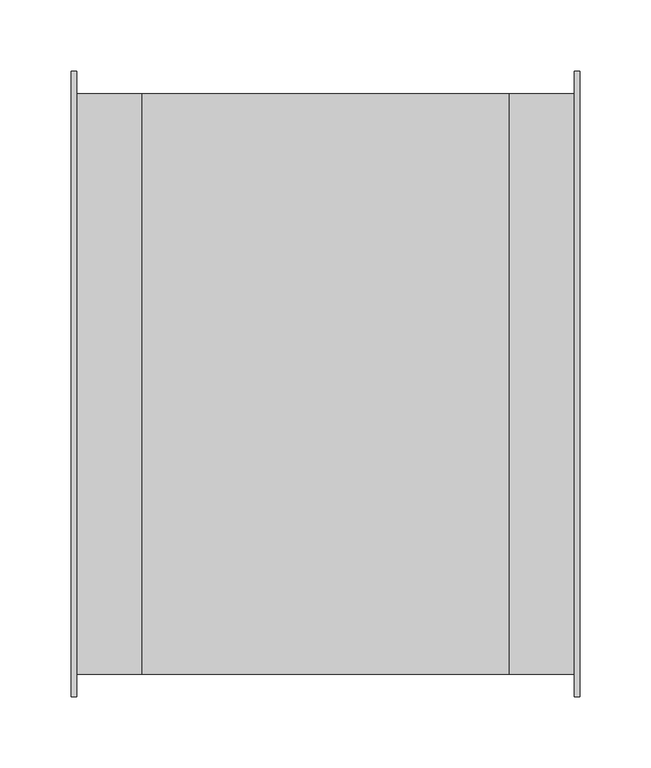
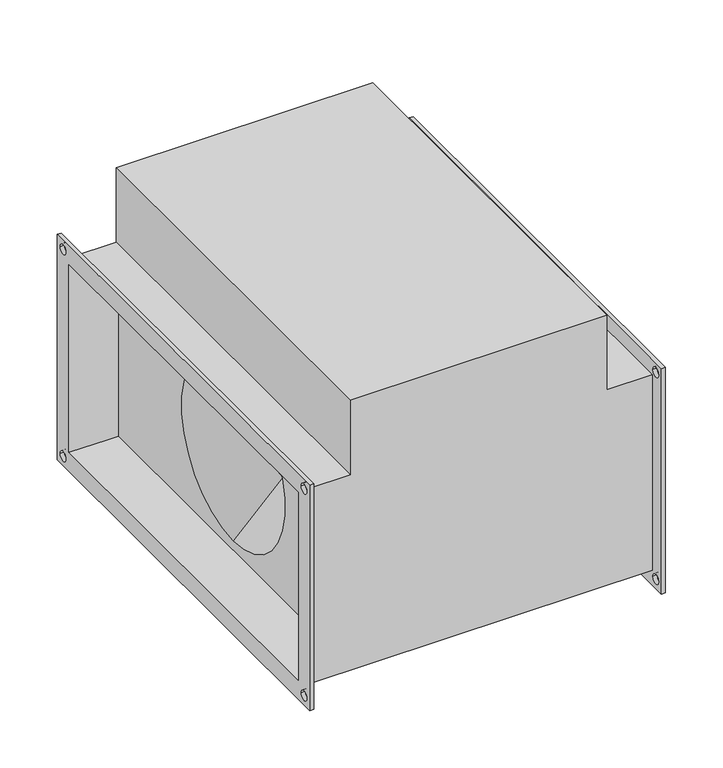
"""IFC4 building model written with IfcOpenShell, lengths in millimetres: proxy geometry, СВ_Вентилятор_КанальныйПрямоугольный_200-1000_SVPS : SVPS-400x200/18.2D."""

from ifc_helpers import new_model, si_unit, frame, origin, place, context, project, spatial, polyline, circle_curve, source, transform, mapped, element, save
from ifc_brep_helpers import plane_surface, revolved_surface, advanced_brep


def mechanical_equipment_0b55b7ea(model_context):
    return source(origin(), model_context, "Body", "AdvancedBrep", [
        advanced_brep(
        [(-175.0, -204.0, 104.0), (-129.0, -204.0, 104.0), (-129.0, 204.0, 104.0), (-175.0, 204.0, 104.0), (129.0, 204.0, 183.0), (129.0, -204.0, 183.0), (129.0, -204.0, 104.0), (129.0, 204.0, 104.0), (129.0, 200.0, -100.0), (129.0, 200.0, 100.0), (129.0, -200.0, 100.0), (129.0, -200.0, -100.0), (129.0, 0.0, 90.0), (129.0, 0.0, -90.0), (-129.0, 200.0, 100.0), (-129.0, 200.0, -100.0), (-129.0, -200.0, -100.0), (-129.0, -200.0, 100.0), (-129.0, 0.0, -90.0), (-129.0, 0.0, 90.0), (-129.0, -204.0, 183.0), (-129.0, 204.0, 183.0), (-175.0, -204.0, -104.0), (175.0, -204.0, -104.0), (175.0, -204.0, 104.0), (-175.0, 204.0, -104.0), (175.0, 204.0, -104.0), (175.0, 204.0, 104.0), (79.0, 0.0, -40.0), (79.0, 0.0, 40.0), (-79.0, 0.0, 40.0), (-79.0, 0.0, -40.0), (-179.0, -220.0, 120.0), (-179.0, 220.0, 120.0), (-179.0, 220.0, -120.0), (-179.0, -220.0, -120.0), (-179.0, -200.0, 100.0), (-179.0, -200.0, -100.0), (-179.0, 200.0, -100.0), (-179.0, 200.0, 100.0), (-179.0, 205.0, 110.0), (-179.0, 215.0, 110.0), (-179.0, -215.0, 110.0), (-179.0, -205.0, 110.0), (-179.0, -215.0, -110.0), (-179.0, -205.0, -110.0), (-179.0, 205.0, -110.0), (-179.0, 215.0, -110.0), (-175.0, -220.0, 120.0), (-175.0, -220.0, -120.0), (-175.0, 220.0, -120.0), (-175.0, 220.0, 120.0), (-175.0, 215.0, 110.0), (-175.0, 205.0, 110.0), (-175.0, -205.0, 110.0), (-175.0, -215.0, 110.0), (-175.0, -205.0, -110.0), (-175.0, -215.0, -110.0), (-175.0, 215.0, -110.0), (-175.0, 205.0, -110.0), (175.0, 220.0, 120.0), (175.0, 220.0, -120.0), (175.0, -220.0, -120.0), (175.0, -220.0, 120.0), (175.0, 205.0, 110.0), (175.0, 215.0, 110.0), (175.0, -215.0, 110.0), (175.0, -205.0, 110.0), (175.0, -215.0, -110.0), (175.0, -205.0, -110.0), (175.0, 205.0, -110.0), (175.0, 215.0, -110.0), (179.0, 220.0, 120.0), (179.0, -220.0, 120.0), (179.0, -220.0, -120.0), (179.0, 220.0, -120.0), (179.0, 200.0, 100.0), (179.0, 200.0, -100.0), (179.0, -200.0, -100.0), (179.0, -200.0, 100.0), (179.0, 215.0, 110.0), (179.0, 205.0, 110.0), (179.0, -205.0, 110.0), (179.0, -215.0, 110.0), (179.0, -205.0, -110.0), (179.0, -215.0, -110.0), (179.0, 215.0, -110.0), (179.0, 205.0, -110.0)],
        [
            (0, 1),
            (1, 2),
            (2, 3),
            (3, 0),
            (4, 5),
            (5, 6),
            (6, 7),
            (7, 4),
            (8, 9),
            (9, 10),
            (10, 11),
            (11, 8),
            (12, 13, circle_curve(frame((129.0, 0.0, 0.0), z_axis=(-1.0, 0.0, 0.0), x_axis=(0.0, 0.0, 1.0)), 90.0)),
            (13, 12, circle_curve(frame((129.0, 0.0, 0.0), z_axis=(-1.0, 0.0, 0.0), x_axis=(0.0, 0.0, 1.0)), 90.0)),
            (14, 15),
            (15, 16),
            (16, 17),
            (17, 14),
            (18, 19, circle_curve(frame((-129.0, 0.0, 0.0), z_axis=(1.0, 0.0, 0.0), x_axis=(0.0, 0.0, 1.0)), 90.0)),
            (19, 18, circle_curve(frame((-129.0, 0.0, 0.0), z_axis=(1.0, 0.0, 0.0), x_axis=(0.0, 0.0, 1.0)), 90.0)),
            (20, 21),
            (21, 2),
            (1, 20),
            (5, 20),
            (0, 22),
            (22, 23),
            (23, 24),
            (24, 6),
            (22, 25),
            (25, 26),
            (26, 23),
            (21, 4),
            (7, 27),
            (27, 26),
            (25, 3),
            (24, 27),
            (28, 13),
            (12, 29),
            (29, 28, circle_curve(frame((79.0, 0.0, 0.0), z_axis=(-1.0, 0.0, 0.0), x_axis=(0.0, 0.0, 1.0)), 40.0)),
            (28, 29, circle_curve(frame((79.0, 0.0, 0.0), z_axis=(-1.0, 0.0, 0.0), x_axis=(0.0, 0.0, 1.0)), 40.0)),
            (29, 30),
            (30, 31, circle_curve(frame((-79.0, 0.0, 0.0), z_axis=(-1.0, 0.0, 0.0), x_axis=(0.0, 0.0, 1.0)), 40.0)),
            (31, 28),
            (31, 30, circle_curve(frame((-79.0, 0.0, 0.0), z_axis=(-1.0, 0.0, 0.0), x_axis=(0.0, 0.0, 1.0)), 40.0)),
            (30, 19),
            (18, 31),
            (32, 33),
            (33, 34),
            (34, 35),
            (35, 32),
            (36, 37),
            (37, 38),
            (38, 39),
            (39, 36),
            (40, 41, circle_curve(frame((-179.0, 210.0, 110.0), z_axis=(1.0, 0.0, 0.0), x_axis=(0.0, 1.0, 0.0)), 5.0)),
            (41, 40, circle_curve(frame((-179.0, 210.0, 110.0), z_axis=(1.0, 0.0, 0.0), x_axis=(0.0, 1.0, 0.0)), 5.0)),
            (42, 43, circle_curve(frame((-179.0, -210.0, 110.0), z_axis=(1.0, 0.0, 0.0), x_axis=(0.0, 1.0, 0.0)), 5.0)),
            (43, 42, circle_curve(frame((-179.0, -210.0, 110.0), z_axis=(1.0, 0.0, 0.0), x_axis=(0.0, 1.0, 0.0)), 5.0)),
            (44, 45, circle_curve(frame((-179.0, -210.0, -110.0), z_axis=(1.0, 0.0, 0.0), x_axis=(0.0, 1.0, 0.0)), 5.0)),
            (45, 44, circle_curve(frame((-179.0, -210.0, -110.0), z_axis=(1.0, 0.0, 0.0), x_axis=(0.0, 1.0, 0.0)), 5.0)),
            (46, 47, circle_curve(frame((-179.0, 210.0, -110.0), z_axis=(1.0, 0.0, 0.0), x_axis=(0.0, 1.0, 0.0)), 5.0)),
            (47, 46, circle_curve(frame((-179.0, 210.0, -110.0), z_axis=(1.0, 0.0, 0.0), x_axis=(0.0, 1.0, 0.0)), 5.0)),
            (48, 49),
            (49, 50),
            (50, 51),
            (51, 48),
            (52, 53, circle_curve(frame((-175.0, 210.0, 110.0), z_axis=(-1.0, 0.0, 0.0), x_axis=(0.0, 1.0, 0.0)), 5.0)),
            (53, 52, circle_curve(frame((-175.0, 210.0, 110.0), z_axis=(-1.0, 0.0, 0.0), x_axis=(0.0, 1.0, 0.0)), 5.0)),
            (54, 55, circle_curve(frame((-175.0, -210.0, 110.0), z_axis=(-1.0, 0.0, 0.0), x_axis=(0.0, 1.0, 0.0)), 5.0)),
            (55, 54, circle_curve(frame((-175.0, -210.0, 110.0), z_axis=(-1.0, 0.0, 0.0), x_axis=(0.0, 1.0, 0.0)), 5.0)),
            (56, 57, circle_curve(frame((-175.0, -210.0, -110.0), z_axis=(-1.0, 0.0, 0.0), x_axis=(0.0, 1.0, 0.0)), 5.0)),
            (57, 56, circle_curve(frame((-175.0, -210.0, -110.0), z_axis=(-1.0, 0.0, 0.0), x_axis=(0.0, 1.0, 0.0)), 5.0)),
            (58, 59, circle_curve(frame((-175.0, 210.0, -110.0), z_axis=(-1.0, 0.0, 0.0), x_axis=(0.0, 1.0, 0.0)), 5.0)),
            (59, 58, circle_curve(frame((-175.0, 210.0, -110.0), z_axis=(-1.0, 0.0, 0.0), x_axis=(0.0, 1.0, 0.0)), 5.0)),
            (35, 49),
            (48, 32),
            (34, 50),
            (33, 51),
            (60, 61),
            (61, 62),
            (62, 63),
            (63, 60),
            (64, 65, circle_curve(frame((175.0, 210.0, 110.0), z_axis=(1.0, 0.0, 0.0), x_axis=(0.0, 1.0, 0.0)), 5.0)),
            (65, 64, circle_curve(frame((175.0, 210.0, 110.0), z_axis=(1.0, 0.0, 0.0), x_axis=(0.0, 1.0, 0.0)), 5.0)),
            (66, 67, circle_curve(frame((175.0, -210.0, 110.0), z_axis=(1.0, 0.0, 0.0), x_axis=(0.0, 1.0, 0.0)), 5.0)),
            (67, 66, circle_curve(frame((175.0, -210.0, 110.0), z_axis=(1.0, 0.0, 0.0), x_axis=(0.0, 1.0, 0.0)), 5.0)),
            (68, 69, circle_curve(frame((175.0, -210.0, -110.0), z_axis=(1.0, 0.0, 0.0), x_axis=(0.0, 1.0, 0.0)), 5.0)),
            (69, 68, circle_curve(frame((175.0, -210.0, -110.0), z_axis=(1.0, 0.0, 0.0), x_axis=(0.0, 1.0, 0.0)), 5.0)),
            (70, 71, circle_curve(frame((175.0, 210.0, -110.0), z_axis=(1.0, 0.0, 0.0), x_axis=(0.0, 1.0, 0.0)), 5.0)),
            (71, 70, circle_curve(frame((175.0, 210.0, -110.0), z_axis=(1.0, 0.0, 0.0), x_axis=(0.0, 1.0, 0.0)), 5.0)),
            (72, 73),
            (73, 74),
            (74, 75),
            (75, 72),
            (76, 77),
            (77, 78),
            (78, 79),
            (79, 76),
            (80, 81, circle_curve(frame((179.0, 210.0, 110.0), z_axis=(-1.0, 0.0, 0.0), x_axis=(0.0, 1.0, 0.0)), 5.0)),
            (81, 80, circle_curve(frame((179.0, 210.0, 110.0), z_axis=(-1.0, 0.0, 0.0), x_axis=(0.0, 1.0, 0.0)), 5.0)),
            (82, 83, circle_curve(frame((179.0, -210.0, 110.0), z_axis=(-1.0, 0.0, 0.0), x_axis=(0.0, 1.0, 0.0)), 5.0)),
            (83, 82, circle_curve(frame((179.0, -210.0, 110.0), z_axis=(-1.0, 0.0, 0.0), x_axis=(0.0, 1.0, 0.0)), 5.0)),
            (84, 85, circle_curve(frame((179.0, -210.0, -110.0), z_axis=(-1.0, 0.0, 0.0), x_axis=(0.0, 1.0, 0.0)), 5.0)),
            (85, 84, circle_curve(frame((179.0, -210.0, -110.0), z_axis=(-1.0, 0.0, 0.0), x_axis=(0.0, 1.0, 0.0)), 5.0)),
            (86, 87, circle_curve(frame((179.0, 210.0, -110.0), z_axis=(-1.0, 0.0, 0.0), x_axis=(0.0, 1.0, 0.0)), 5.0)),
            (87, 86, circle_curve(frame((179.0, 210.0, -110.0), z_axis=(-1.0, 0.0, 0.0), x_axis=(0.0, 1.0, 0.0)), 5.0)),
            (63, 73),
            (72, 60),
            (62, 74),
            (61, 75),
            (39, 14),
            (17, 36),
            (38, 15),
            (37, 16),
            (76, 9),
            (8, 77),
            (11, 78),
            (10, 79),
            (40, 53),
            (52, 41),
            (64, 81),
            (80, 65),
            (42, 55),
            (54, 43),
            (66, 83),
            (82, 67),
            (44, 57),
            (56, 45),
            (68, 85),
            (84, 69),
            (46, 59),
            (58, 47),
            (70, 87),
            (86, 71),
        ],
        [
            plane_surface(frame((-129.0, 204.0, 104.0), z_axis=(0.0, 0.0, 1.0), x_axis=(-1.0, 0.0, 0.0))),
            plane_surface(frame((129.0, -204.0, 183.0), z_axis=(1.0, 0.0, 0.0), x_axis=(0.0, 0.0, -1.0))),
            plane_surface(frame((-129.0, -204.0, 183.0), z_axis=(-1.0, 0.0, 0.0), x_axis=(0.0, 0.0, 1.0))),
            plane_surface(frame((129.0, -204.0, 183.0), z_axis=(0.0, -1.0, 0.0), x_axis=(-1.0, 0.0, 0.0))),
            plane_surface(frame((129.0, -204.0, -104.0), z_axis=(0.0, 0.0, -1.0), x_axis=(-1.0, 0.0, 0.0))),
            plane_surface(frame((129.0, 204.0, -104.0), z_axis=(0.0, 1.0, 0.0), x_axis=(-1.0, 0.0, 0.0))),
            plane_surface(frame((129.0, 204.0, 183.0), z_axis=(0.0, 0.0, 1.0), x_axis=(-1.0, 0.0, 0.0))),
            plane_surface(frame((175.0, 204.0, 104.0), z_axis=(0.0, 0.0, 1.0), x_axis=(-1.0, 0.0, 0.0))),
            revolved_surface(polyline([(79.0, 0.0, 40.0), (129.0, 0.0, 90.0)]), (-566.0617897, 0.0, 0.0), (-1.0, 0.0, 0.0)),
            revolved_surface(polyline([(-79.0, 0.0, 40.0), (79.0, 0.0, 40.0)]), (-566.0617897, 0.0, 0.0), (-1.0, 0.0, 0.0)),
            revolved_surface(polyline([(-129.0, 0.0, 90.0), (-79.0, 0.0, 40.0)]), (-566.0617897, 0.0, 0.0), (-1.0, 0.0, 0.0)),
            plane_surface(frame((-179.0, -220.0, 120.0), z_axis=(-1.0, 0.0, 0.0), x_axis=(0.0, 0.0, 1.0))),
            plane_surface(frame((-175.0, -220.0, 120.0), z_axis=(1.0, 0.0, 0.0), x_axis=(0.0, 0.0, -1.0))),
            plane_surface(frame((-175.0, -220.0, 120.0), z_axis=(0.0, -1.0, 0.0), x_axis=(-1.0, 0.0, 0.0))),
            plane_surface(frame((-175.0, -220.0, -120.0), z_axis=(0.0, 0.0, -1.0), x_axis=(-1.0, 0.0, 0.0))),
            plane_surface(frame((-175.0, 220.0, -120.0), z_axis=(0.0, 1.0, 0.0), x_axis=(-1.0, 0.0, 0.0))),
            plane_surface(frame((-175.0, 220.0, 120.0), z_axis=(0.0, 0.0, 1.0), x_axis=(-1.0, 0.0, 0.0))),
            plane_surface(frame((175.0, 200.0, -100.0), z_axis=(-1.0, 0.0, 0.0), x_axis=(0.0, 0.0, 1.0))),
            plane_surface(frame((179.0, 200.0, -100.0), z_axis=(1.0, 0.0, 0.0), x_axis=(0.0, 0.0, -1.0))),
            plane_surface(frame((179.0, 220.0, 120.0), z_axis=(0.0, 0.0, 1.0), x_axis=(-1.0, 0.0, 0.0))),
            plane_surface(frame((179.0, -220.0, 120.0), z_axis=(0.0, -1.0, 0.0), x_axis=(-1.0, 0.0, 0.0))),
            plane_surface(frame((179.0, -220.0, -120.0), z_axis=(0.0, 0.0, -1.0), x_axis=(-1.0, 0.0, 0.0))),
            plane_surface(frame((179.0, 220.0, -120.0), z_axis=(0.0, 1.0, 0.0), x_axis=(-1.0, 0.0, 0.0))),
            plane_surface(frame((-175.0, -200.0, 100.0), z_axis=(0.0, 0.0, -1.0), x_axis=(-1.0, 0.0, 0.0))),
            plane_surface(frame((-175.0, 200.0, 100.0), z_axis=(0.0, -1.0, 0.0), x_axis=(-1.0, 0.0, 0.0))),
            plane_surface(frame((-175.0, 200.0, -100.0), z_axis=(0.0, 0.0, 1.0), x_axis=(-1.0, 0.0, 0.0))),
            plane_surface(frame((-175.0, -200.0, -100.0), z_axis=(0.0, 1.0, 0.0), x_axis=(-1.0, 0.0, 0.0))),
            plane_surface(frame((179.0, 200.0, 100.0), z_axis=(0.0, -1.0, 0.0), x_axis=(-1.0, 0.0, 0.0))),
            plane_surface(frame((179.0, 200.0, -100.0), z_axis=(0.0, 0.0, 1.0), x_axis=(-1.0, 0.0, 0.0))),
            plane_surface(frame((179.0, -200.0, -100.0), z_axis=(0.0, 1.0, 0.0), x_axis=(-1.0, 0.0, 0.0))),
            plane_surface(frame((179.0, -200.0, 100.0), z_axis=(0.0, 0.0, -1.0), x_axis=(-1.0, 0.0, 0.0))),
            revolved_surface(polyline([(-175.0, 215.0, 110.0), (-179.0, 215.0, 110.0)]), (-179.0, 210.0, 110.0), (1.0, 0.0, 0.0)),
            revolved_surface(polyline([(179.0, 215.0, 110.0), (175.0, 215.0, 110.0)]), (-179.0, 210.0, 110.0), (1.0, 0.0, 0.0)),
            revolved_surface(polyline([(-175.0, -205.0, 110.0), (-179.0, -205.0, 110.0)]), (0.0, -210.0, 110.0), (1.0, 0.0, 0.0)),
            revolved_surface(polyline([(179.0, -205.0, 110.0), (175.0, -205.0, 110.0)]), (0.0, -210.0, 110.0), (1.0, 0.0, 0.0)),
            revolved_surface(polyline([(-175.0, -205.0, -110.0), (-179.0, -205.0, -110.0)]), (0.0, -210.0, -110.0), (1.0, 0.0, 0.0)),
            revolved_surface(polyline([(179.0, -205.0, -110.0), (175.0, -205.0, -110.0)]), (0.0, -210.0, -110.0), (1.0, 0.0, 0.0)),
            revolved_surface(polyline([(-175.0, 215.0, -110.0), (-179.0, 215.0, -110.0)]), (0.0, 210.0, -110.0), (1.0, 0.0, 0.0)),
            revolved_surface(polyline([(179.0, 215.0, -110.0), (175.0, 215.0, -110.0)]), (0.0, 210.0, -110.0), (1.0, 0.0, 0.0)),
        ],
        [
            (0, [[1, 2, 3, 4]]),
            (1, [[5, 6, 7, 8]]),
            (1, [[9, 10, 11, 12], [13, 14]]),
            (2, [[15, 16, 17, 18], [19, 20]]),
            (2, [[21, 22, -2, 23]]),
            (3, [[24, -23, -1, 25, 26, 27, 28, -6]]),
            (4, [[-26, 29, 30, 31]]),
            (5, [[32, -8, 33, 34, -30, 35, -3, -22]]),
            (6, [[-5, -32, -21, -24]]),
            (7, [[-28, 36, -33, -7]]),
            (8, [[37, -13, 38, 39]]),
            (8, [[-37, 40, -38, -14]]),
            (9, [[-39, 41, 42, 43]]),
            (9, [[-40, -43, 44, -41]]),
            (10, [[-42, 45, -19, 46]]),
            (10, [[-44, -46, -20, -45]]),
            (11, [[47, 48, 49, 50], [51, 52, 53, 54], [55, 56], [57, 58], [59, 60], [61, 62]]),
            (12, [[63, 64, 65, 66], [-25, -4, -35, -29], [67, 68], [69, 70], [71, 72], [73, 74]]),
            (13, [[-50, 75, -63, 76]]),
            (14, [[-49, 77, -64, -75]]),
            (15, [[-48, 78, -65, -77]]),
            (16, [[-47, -76, -66, -78]]),
            (17, [[79, 80, 81, 82], [-27, -31, -34, -36], [83, 84], [85, 86], [87, 88], [89, 90]]),
            (18, [[91, 92, 93, 94], [95, 96, 97, 98], [99, 100], [101, 102], [103, 104], [105, 106]]),
            (19, [[-82, 107, -91, 108]]),
            (20, [[-81, 109, -92, -107]]),
            (21, [[-80, 110, -93, -109]]),
            (22, [[-79, -108, -94, -110]]),
            (23, [[-54, 111, -18, 112]]),
            (24, [[-53, 113, -15, -111]]),
            (25, [[-52, 114, -16, -113]]),
            (26, [[-51, -112, -17, -114]]),
            (27, [[-95, 115, -9, 116]]),
            (28, [[-96, -116, -12, 117]]),
            (29, [[-97, -117, -11, 118]]),
            (30, [[-115, -98, -118, -10]]),
            (31, [[119, -67, 120, -55]]),
            (32, [[121, -99, 122, -83]]),
            (31, [[-119, -56, -120, -68]]),
            (32, [[-121, -84, -122, -100]]),
            (33, [[123, -69, 124, -57]]),
            (34, [[125, -101, 126, -85]]),
            (33, [[-123, -58, -124, -70]]),
            (34, [[-125, -86, -126, -102]]),
            (35, [[127, -71, 128, -59]]),
            (36, [[129, -103, 130, -87]]),
            (35, [[-127, -60, -128, -72]]),
            (36, [[-129, -88, -130, -104]]),
            (37, [[131, -73, 132, -61]]),
            (38, [[133, -105, 134, -89]]),
            (37, [[-131, -62, -132, -74]]),
            (38, [[-133, -90, -134, -106]]),
        ],
    ),
    ])


if __name__ == "__main__":
    model = new_model("IFC4")
    model_context = context("Model", 3, world=origin())
    ifc_project = project(units=[si_unit("LENGTHUNIT", "METRE", prefix="MILLI")], contexts=[model_context])
    site = spatial("IfcSite", under=ifc_project)
    building = spatial("IfcBuilding", under=site)
    placement = place(None, origin())
    mechanical_equipment_shape = mechanical_equipment_0b55b7ea(model_context)
    element("IfcBuildingElementProxy", 1, Name="СВ_Вентилятор_КанальныйПрямоугольный_200-1000_SVPS : SVPS-400x200/18.2D", ObjectType="СВ_Вентилятор_КанальныйПрямоугольный_200-1000_SVPS : SVPS-400x200/18.2D", at=placement, inside=building, context=model_context, shape_type="MappedRepresentation", body=[
        mapped(mechanical_equipment_shape, transform((0.0, 0.0, 0.0), x_axis=(1.0, 0.0, 0.0), y_axis=(0.0, 1.0, 0.0), z_axis=(0.0, 0.0, 1.0))),
    ])
    save(model, "model.ifc")
